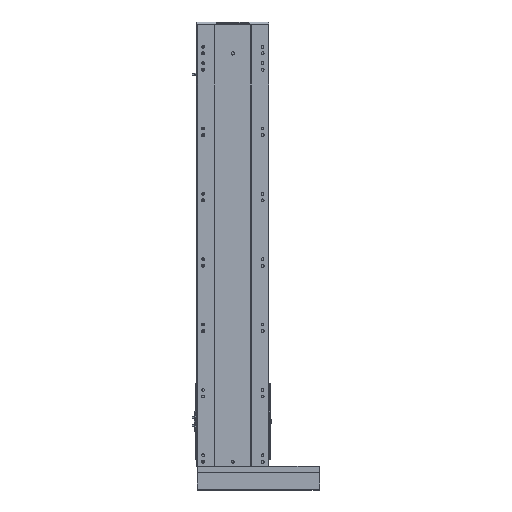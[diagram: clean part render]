
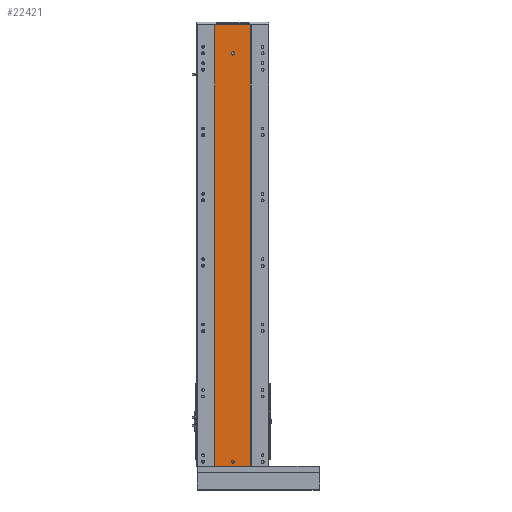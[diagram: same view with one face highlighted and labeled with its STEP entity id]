
A CAD part, top view. The second image highlights one B-rep face of the part: STEP entity #22421.
In plain terms, the highlighted planar face has unit normal (0, 0, 1).
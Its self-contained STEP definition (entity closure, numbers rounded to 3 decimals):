
#773 = VERTEX_POINT ( 'NONE', #107484 ) ;
#1320 = CARTESIAN_POINT ( 'NONE',  ( -4., 1265., 58. ) ) ;
#1572 = CARTESIAN_POINT ( 'NONE',  ( -55., 1351., 58. ) ) ;
#2640 = VECTOR ( 'NONE', #5992, 1000. ) ;
#5204 = CARTESIAN_POINT ( 'NONE',  ( 4., 1265., 58. ) ) ;
#5694 = EDGE_CURVE ( 'NONE', #87484, #97237, #114387, .T. ) ;
#5992 = DIRECTION ( 'NONE',  ( 1., 0., 0. ) ) ;
#9495 = DIRECTION ( 'NONE',  ( 0., 0., 1. ) ) ;
#13722 = ORIENTED_EDGE ( 'NONE', *, *, #33859, .T. ) ;
#15858 = VERTEX_POINT ( 'NONE', #19153 ) ;
#19000 = FACE_BOUND ( 'NONE', #57526, .T. ) ;
#19153 = CARTESIAN_POINT ( 'NONE',  ( -55., 0., 58. ) ) ;
#19274 = AXIS2_PLACEMENT_3D ( 'NONE', #29467, #37137, #105026 ) ;
#19465 = CIRCLE ( 'NONE', #100791, 4. ) ;
#20543 = DIRECTION ( 'NONE',  ( 1., 0., 0. ) ) ;
#22421 = ADVANCED_FACE ( 'NONE', ( #31132, #19000, #55428 ), #87606, .F. ) ;
#23268 = EDGE_CURVE ( 'NONE', #38724, #773, #32442, .T. ) ;
#25109 = VERTEX_POINT ( 'NONE', #1320 ) ;
#25850 = LINE ( 'NONE', #1572, #117131 ) ;
#26730 = VERTEX_POINT ( 'NONE', #72329 ) ;
#26742 = EDGE_CURVE ( 'NONE', #65606, #40207, #19465, .T. ) ;
#27474 = VECTOR ( 'NONE', #88947, 1000. ) ;
#29467 = CARTESIAN_POINT ( 'NONE',  ( -55., 1351., 58. ) ) ;
#31132 = FACE_BOUND ( 'NONE', #54961, .T. ) ;
#32442 = LINE ( 'NONE', #119902, #84080 ) ;
#33859 = EDGE_CURVE ( 'NONE', #26730, #15858, #25850, .T. ) ;
#37137 = DIRECTION ( 'NONE',  ( 0., 0., -1. ) ) ;
#38596 = ORIENTED_EDGE ( 'NONE', *, *, #48004, .F. ) ;
#38724 = VERTEX_POINT ( 'NONE', #125752 ) ;
#40207 = VERTEX_POINT ( 'NONE', #116845 ) ;
#40509 = LINE ( 'NONE', #54019, #2640 ) ;
#42520 = ORIENTED_EDGE ( 'NONE', *, *, #105230, .T. ) ;
#48004 = EDGE_CURVE ( 'NONE', #26730, #38724, #40509, .T. ) ;
#48266 = DIRECTION ( 'NONE',  ( 0., -1., 0. ) ) ;
#48669 = VECTOR ( 'NONE', #84660, 1000. ) ;
#48888 = CARTESIAN_POINT ( 'NONE',  ( -55., 0., 58. ) ) ;
#49130 = CARTESIAN_POINT ( 'NONE',  ( -4., 1263., 58. ) ) ;
#49995 = DIRECTION ( 'NONE',  ( 1., 0., 0. ) ) ;
#50667 = ORIENTED_EDGE ( 'NONE', *, *, #85533, .F. ) ;
#54019 = CARTESIAN_POINT ( 'NONE',  ( -55., 1351., 58. ) ) ;
#54228 = CARTESIAN_POINT ( 'NONE',  ( 4., 1263., 58. ) ) ;
#54961 = EDGE_LOOP ( 'NONE', ( #119681, #88966 ) ) ;
#55428 = FACE_OUTER_BOUND ( 'NONE', #89947, .T. ) ;
#57526 = EDGE_LOOP ( 'NONE', ( #89264, #81644, #57602, #50667 ) ) ;
#57602 = ORIENTED_EDGE ( 'NONE', *, *, #107426, .F. ) ;
#59789 = VECTOR ( 'NONE', #106121, 1000. ) ;
#60234 = EDGE_CURVE ( 'NONE', #40207, #65606, #99591, .T. ) ;
#62608 = DIRECTION ( 'NONE',  ( 0., 0., 1. ) ) ;
#62978 = AXIS2_PLACEMENT_3D ( 'NONE', #117675, #9495, #20543 ) ;
#65606 = VERTEX_POINT ( 'NONE', #124601 ) ;
#71527 = DIRECTION ( 'NONE',  ( 0., -1., 0. ) ) ;
#72329 = CARTESIAN_POINT ( 'NONE',  ( -55., 1351., 58. ) ) ;
#75041 = CARTESIAN_POINT ( 'NONE',  ( 0., 14., 58. ) ) ;
#75896 = DIRECTION ( 'NONE',  ( 0., 0., 1. ) ) ;
#76139 = AXIS2_PLACEMENT_3D ( 'NONE', #125898, #88134, #49995 ) ;
#76814 = VERTEX_POINT ( 'NONE', #5204 ) ;
#77434 = EDGE_CURVE ( 'NONE', #97237, #76814, #98664, .T. ) ;
#81031 = LINE ( 'NONE', #48888, #59789 ) ;
#81644 = ORIENTED_EDGE ( 'NONE', *, *, #5694, .F. ) ;
#84080 = VECTOR ( 'NONE', #71527, 1000. ) ;
#84660 = DIRECTION ( 'NONE',  ( 0., 1., 0. ) ) ;
#85533 = EDGE_CURVE ( 'NONE', #76814, #25109, #109713, .T. ) ;
#87350 = ORIENTED_EDGE ( 'NONE', *, *, #23268, .F. ) ;
#87484 = VERTEX_POINT ( 'NONE', #100922 ) ;
#87606 = PLANE ( 'NONE',  #19274 ) ;
#88134 = DIRECTION ( 'NONE',  ( 0., 0., 1. ) ) ;
#88947 = DIRECTION ( 'NONE',  ( 0., -1., 0. ) ) ;
#88966 = ORIENTED_EDGE ( 'NONE', *, *, #26742, .F. ) ;
#89264 = ORIENTED_EDGE ( 'NONE', *, *, #77434, .F. ) ;
#89947 = EDGE_LOOP ( 'NONE', ( #42520, #87350, #38596, #13722 ) ) ;
#90722 = AXIS2_PLACEMENT_3D ( 'NONE', #75041, #75896, #113253 ) ;
#92426 = CARTESIAN_POINT ( 'NONE',  ( 4., 1263., 58. ) ) ;
#97237 = VERTEX_POINT ( 'NONE', #92426 ) ;
#98664 = LINE ( 'NONE', #54228, #48669 ) ;
#99591 = CIRCLE ( 'NONE', #90722, 4. ) ;
#100791 = AXIS2_PLACEMENT_3D ( 'NONE', #110072, #62608, #101573 ) ;
#100922 = CARTESIAN_POINT ( 'NONE',  ( -4., 1263., 58. ) ) ;
#101573 = DIRECTION ( 'NONE',  ( 1., 0., 0. ) ) ;
#105026 = DIRECTION ( 'NONE',  ( -1., 0., 0. ) ) ;
#105230 = EDGE_CURVE ( 'NONE', #15858, #773, #81031, .T. ) ;
#106121 = DIRECTION ( 'NONE',  ( 1., 0., 0. ) ) ;
#107426 = EDGE_CURVE ( 'NONE', #25109, #87484, #112575, .T. ) ;
#107484 = CARTESIAN_POINT ( 'NONE',  ( 55., 0., 58. ) ) ;
#109713 = CIRCLE ( 'NONE', #62978, 4. ) ;
#110072 = CARTESIAN_POINT ( 'NONE',  ( 0., 14., 58. ) ) ;
#112575 = LINE ( 'NONE', #49130, #27474 ) ;
#113253 = DIRECTION ( 'NONE',  ( 1., 0., 0. ) ) ;
#114387 = CIRCLE ( 'NONE', #76139, 4. ) ;
#116845 = CARTESIAN_POINT ( 'NONE',  ( 4., 14., 58. ) ) ;
#117131 = VECTOR ( 'NONE', #48266, 1000. ) ;
#117675 = CARTESIAN_POINT ( 'NONE',  ( 0., 1265., 58. ) ) ;
#119681 = ORIENTED_EDGE ( 'NONE', *, *, #60234, .F. ) ;
#119902 = CARTESIAN_POINT ( 'NONE',  ( 55., 1351., 58. ) ) ;
#124601 = CARTESIAN_POINT ( 'NONE',  ( -4., 14., 58. ) ) ;
#125752 = CARTESIAN_POINT ( 'NONE',  ( 55., 1351., 58. ) ) ;
#125898 = CARTESIAN_POINT ( 'NONE',  ( 0., 1263., 58. ) ) ;
